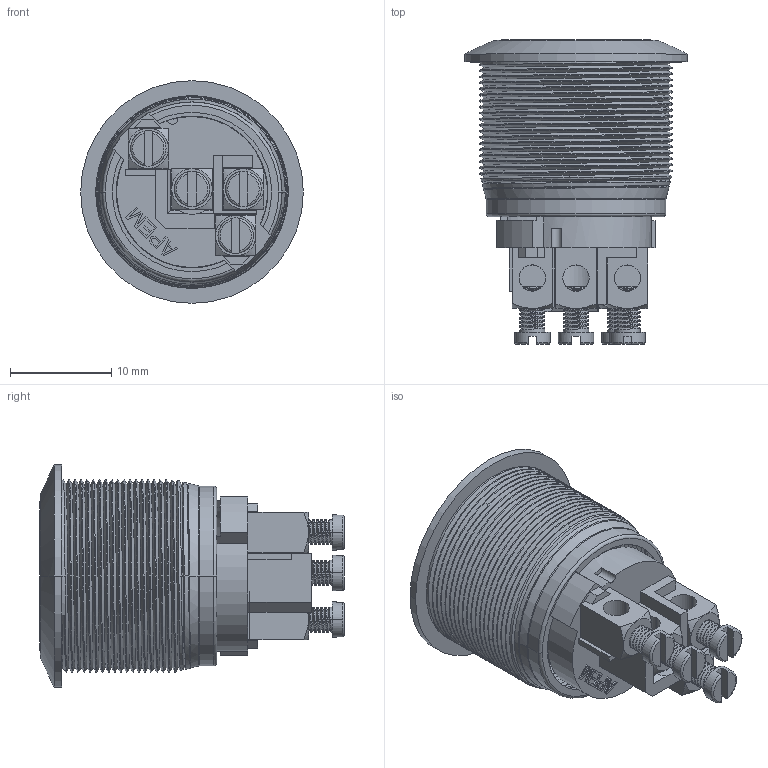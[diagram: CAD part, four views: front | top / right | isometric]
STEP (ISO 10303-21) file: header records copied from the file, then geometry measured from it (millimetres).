
FILE_DESCRIPTION((''),'2;1');
FILE_NAME('AC09C7L3D900XK','2012-02-13T',('jlgachon'),(''),'PRO/ENGINEER BY PARAMETRIC TECHNOLOGY CORPORATION, 2010280','PRO/ENGINEER BY PARAMETRIC TECHNOLOGY CORPORATION, 2010280','');
FILE_SCHEMA(('CONFIG_CONTROL_DESIGN'));
Products named in the file (1): AC09C7L3D900XK
Bounding box: 22 x 30.1 x 22 mm (x, y, z)
Surface area: 3486.7 mm2 (no closed solid volume)
Topology: 0 solids, 18 shells, 351 faces, 1226 edges, 874 vertices
Faces by surface type: cylinder 147, plane 94, bspline 68, cone 28, torus 12, sphere 2
Entity records: 41627 total; most frequent: CARTESIAN_POINT 32351, ORIENTED_EDGE 2016, DIRECTION 1416, EDGE_CURVE 1226, VERTEX_POINT 874, VECTOR 550, LINE 550, B_SPLINE_CURVE_WITH_KNOTS 526
